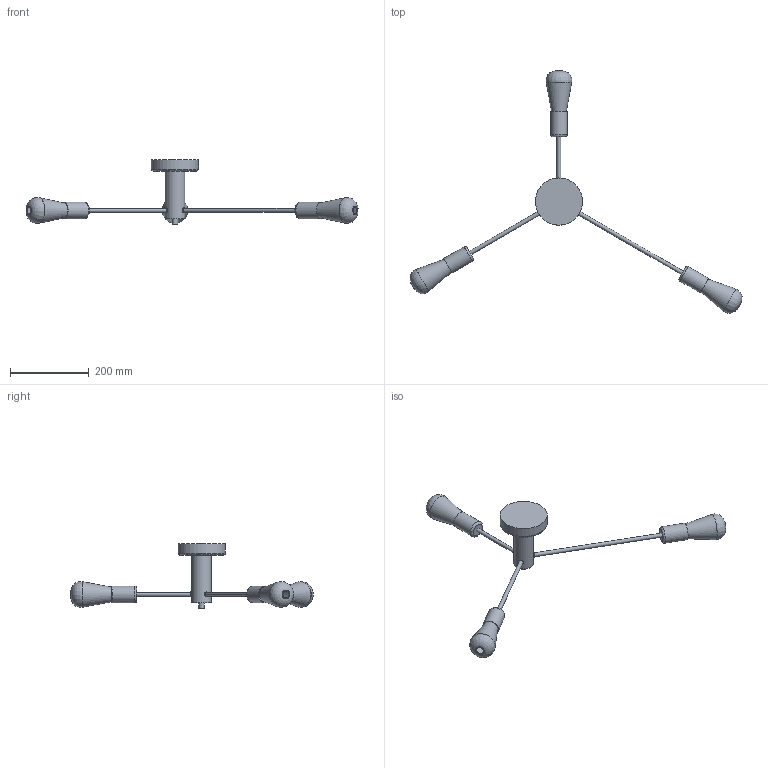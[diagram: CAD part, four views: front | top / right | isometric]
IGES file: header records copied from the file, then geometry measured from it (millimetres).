
Start section: SolidWorks IGES file using analytic representation for surfaces
Global section: file name: X:\PRODUKT\Modele 3D_WWW\_KOLEKCJE WWW\MILL\9136\MILL-9136.IGS; native system: SolidWorks 2021; preprocessor: SolidWorks 2021; author: gabriela.tworek; date: 221114.114457; units: millimetre
Bounding box: 843.19 x 615.7 x 164.5 mm (x, y, z)
Surface area: 247254 mm2 (no closed solid volume)
Topology: 0 solids, 0 shells, 429 faces, 1545 edges, 1357 vertices
Faces by surface type: bspline 223, revolution 206
